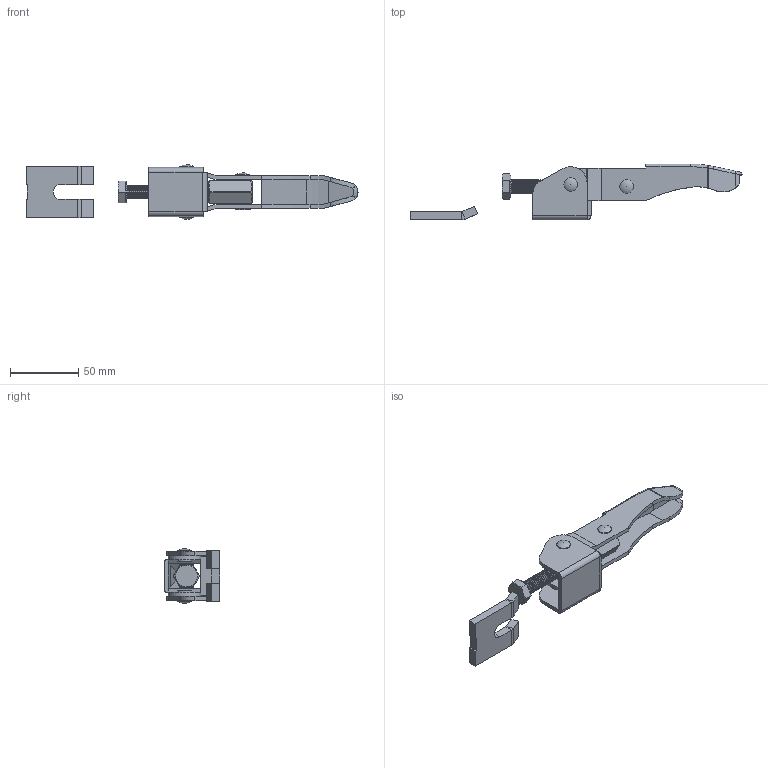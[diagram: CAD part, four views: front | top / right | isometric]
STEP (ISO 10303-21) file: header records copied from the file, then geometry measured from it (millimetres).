
FILE_DESCRIPTION (( 'STEP AP214' ), '1' );
FILE_NAME ('ISK-FA1600.STEP', '2015-08-11T11:40:12', ( '' ), ( '' ), 'SwSTEP 2.0', 'SolidWorks 2015', '' );
FILE_SCHEMA (( 'AUTOMOTIVE_DESIGN' ));
Length unit declared in the file: millimetre
Products named in the file (9): Plate; continuous thread hexagon head bolt_a_jis_JIS B 1180 Continuous thread hexagon head bolt A M10 x 70 --S; Rivet_Φ8×24; Rivet_兂6亊6; Nut_M10; H-Nut_M10L32; Handle; Base; ISK-FA1600
Assembly tree (9 placements, depth 2):
  ISK-FA1600
    Base
    Handle
    H-Nut_M10L32
    Nut_M10
    Rivet_兂6亊6  x2
    Rivet_Φ8×24
    continuous thread hexagon head bolt_a_jis_JIS B 1180 Continuous thread hexagon head bolt A M10 x 70 --S
    Plate
Bounding box: 243.7 x 41 x 40.2 mm (x, y, z)
Volume: 55763.1 mm3; surface area: 38065 mm2
Topology: 9 solids, 9 shells, 539 faces, 1379 edges, 860 vertices
Faces by surface type: cone 220, cylinder 185, plane 120, bspline 5, sphere 5, torus 4
Entity records: 17087 total; most frequent: CARTESIAN_POINT 3540, DIRECTION 2967, ORIENTED_EDGE 2704, EDGE_CURVE 1352, AXIS2_PLACEMENT_3D 1189, VERTEX_POINT 842, CIRCLE 653, VECTOR 589
